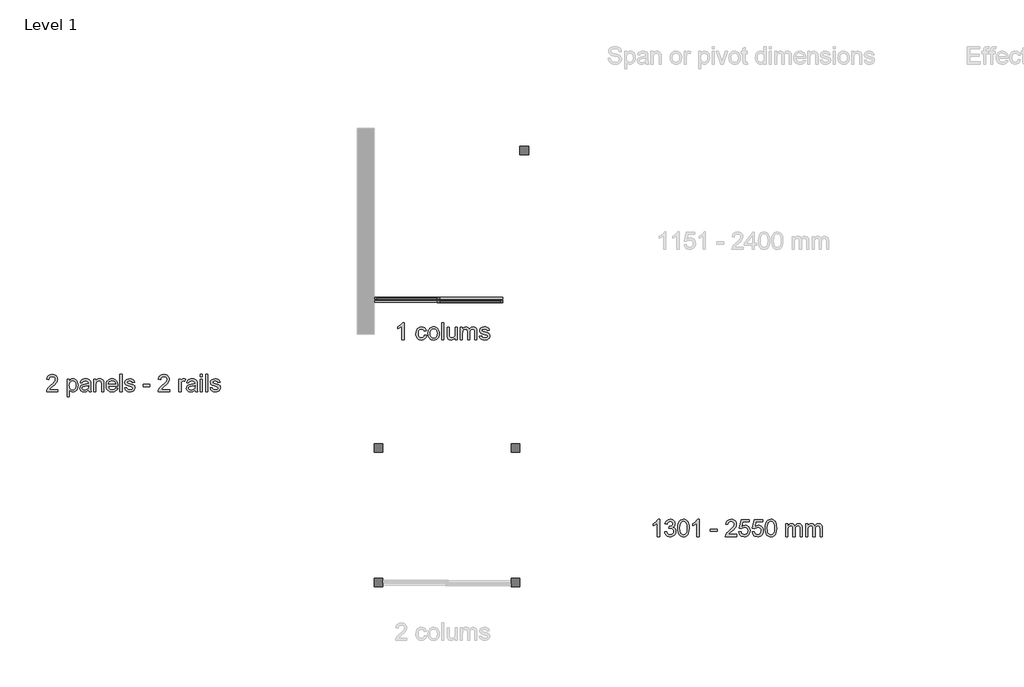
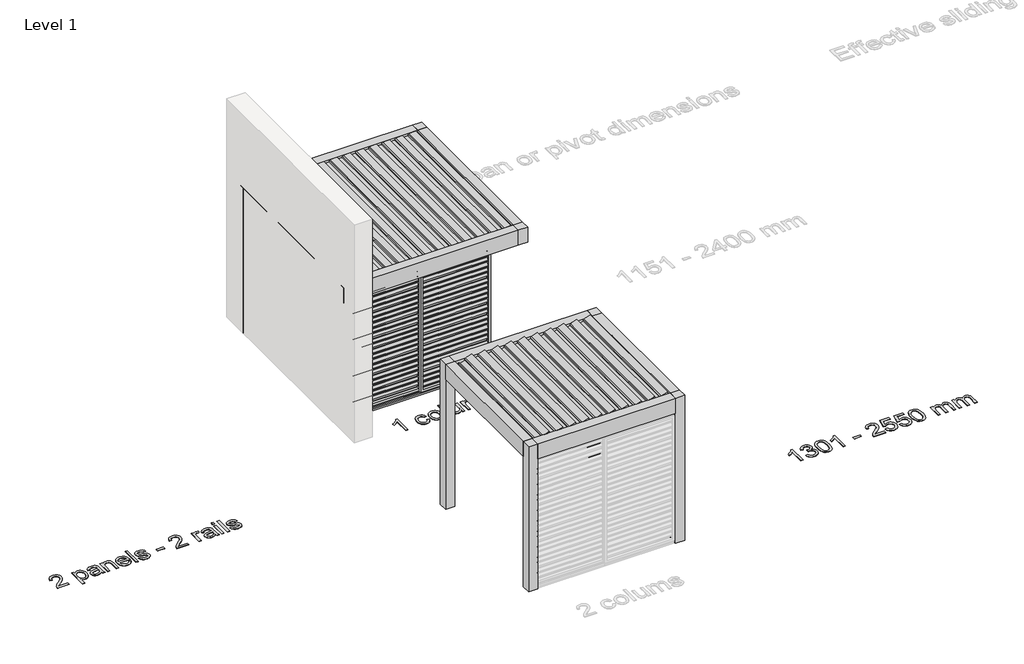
# One storey, part 35 of 69: 7 proxies.
"""IFC4 building model written with IfcOpenShell, lengths in millimetres."""

from ifc_helpers import new_model, si_unit, origin, origin_with_axes, place, context, project, spatial, polyline, outline, extrude, transform, mapped, element, save
from components import generic_models_f1411d27, generic_models_b7cc87ee, generic_models_d7d8f14e, generic_models_ce49d216

model = new_model("IFC4")

# Units and contexts
model_context = context("Model", 3, world=origin())
ifc_project = project(units=[si_unit("LENGTHUNIT", "METRE", prefix="MILLI")], contexts=[model_context])

# Site, building, storey
site = spatial("IfcSite", under=ifc_project)
building = spatial("IfcBuilding", under=site)
storey = spatial("IfcBuildingStorey", under=building, Name="Level 1", Elevation=0.0)

# Proxies
placement = place(None, origin())
generic_models_shape = generic_models_f1411d27(model_context)
element("IfcBuildingElementProxy", 1, Name="Renson_Camargue_Loggia_Paro_Aluminium : Renson_Camargue_Loggia_Paro_Aluminium", ObjectType="Renson_Camargue_Loggia_Paro_Aluminium : Renson_Camargue_Loggia_Paro_Aluminium", at=placement, inside=storey, context=model_context, shape_type="MappedRepresentation", body=[
    mapped(generic_models_shape, transform((229821.2027724, -11249.318181, 0.0), x_axis=(1.0, 0.0, 0.0), y_axis=(0.0, 1.0, 0.0), z_axis=(0.0, 0.0, 1.0))),
])
generic_models_2_shape = generic_models_b7cc87ee(model_context)
element("IfcBuildingElementProxy", 2, Name="Renson_Camargue_Loggia_Paro_Aluminium : Renson_Camargue_Loggia_Paro_Aluminium", ObjectType="Renson_Camargue_Loggia_Paro_Aluminium : Renson_Camargue_Loggia_Paro_Aluminium", at=placement, inside=storey, context=model_context, shape_type="MappedRepresentation", body=[
    mapped(generic_models_2_shape, transform((230926.2027724, -11305.4086851, 0.0), x_axis=(1.0, 0.0, 0.0), y_axis=(0.0, 1.0, 0.0), z_axis=(0.0, 0.0, 1.0))),
])
generic_models_3_shape = generic_models_d7d8f14e(model_context)
element("IfcBuildingElementProxy", 3, Name="Renson_Camargue_Freestanding_Patio covers : Renson_Camargue_Freestanding_Patio covers", ObjectType="Renson_Camargue_Freestanding_Patio covers : Renson_Camargue_Freestanding_Patio covers", at=placement, inside=storey, context=model_context, shape_type="MappedRepresentation", body=[
    mapped(generic_models_3_shape, transform((230523.7027724, -15046.484658, 0.0), x_axis=(1.0, 0.0, 0.0), y_axis=(0.0, 1.0, 0.0), z_axis=(0.0, 0.0, 1.0))),
])
generic_models_4_shape = generic_models_ce49d216(model_context)
element("IfcBuildingElementProxy", 4, Name="Renson_Camargue_Facade-Mounted_Patio covers : Renson_Camargue_Facade-Mounted_Patio covers", ObjectType="Renson_Camargue_Facade-Mounted_Patio covers : Renson_Camargue_Facade-Mounted_Patio covers", at=placement, inside=storey, context=model_context, shape_type="MappedRepresentation", body=[
    mapped(generic_models_4_shape, transform((230448.7027724, -10089.318181, 0.0), x_axis=(1.0, 0.0, 0.0), y_axis=(0.0, 1.0, 0.0), z_axis=(0.0, 0.0, 1.0))),
])
element("IfcBuildingElementProxy", 5, Name="300mm Arial", ObjectType="300mm Arial", at=placement, inside=storey, context=model_context, shape_type="SweptSolid", body=[
    extrude(outline(polyline([(223710.7497808, -12846.1954751), (223710.7497808, -12883.8665914), (223512.9764202, -12883.8665914), (223517.0231222, -12857.8941226), (223526.3121426, -12837.5962335), (223539.9053823, -12817.9053497), (223559.5686749, -12797.2947609), (223587.0678541, -12774.2377569), (223627.7188145, -12738.1301391), (223652.1093908, -12711.4770885), (223664.304679, -12689.8456272), (223668.369775, -12668.8027771), (223664.5346052, -12649.9396278), (223653.0290958, -12634.2586577), (223635.3431689, -12623.6912474), (223612.9667465, -12620.1687773), (223589.4682841, -12623.608474), (223571.2121401, -12633.9275639), (223559.4307192, -12650.3167068), (223555.3564261, -12671.9665622), (223517.6853098, -12667.2576727), (223526.8179803, -12630.8189611), (223535.3643389, -12616.2830237), (223546.5640464, -12604.2026987), (223560.1595854, -12594.7067447), (223575.8934385, -12587.9239204), (223613.7760869, -12582.497661), (223633.9659107, -12584.0059772), (223651.9346469, -12588.5309257), (223667.6822955, -12596.0725066), (223681.2088566, -12606.6307199), (223692.0728718, -12619.4238163), (223699.8328826, -12633.6700465), (223704.4888891, -12649.3694107), (223706.0408913, -12666.5219087), (223704.3670282, -12684.5389294), (223699.345439, -12702.2432504), (223690.4334977, -12720.2510741), (223677.0885783, -12739.1786027), (223655.8158019, -12761.7757543), (223623.1202896, -12790.7924467), (223579.7837906, -12827.0288232), (223562.7876424, -12846.1954751), (223710.7497808, -12846.1954751)])), origin_with_axes(), (0.0, 0.0, 1.0), 5.0),
    extrude(outline(polyline([(223875.5609147, -12968.6266031), (223875.5609147, -12662.5487832), (223913.232031, -12662.5487832), (223913.232031, -12699.4841355), (223925.5192896, -12681.2647797), (223939.2780762, -12668.2509541), (223955.3177312, -12660.4426587), (223974.447595, -12657.8398936), (223999.9234232, -12661.4819254), (224022.198678, -12672.4080206), (224040.3352603, -12689.9559918), (224053.3950712, -12713.4636513), (224061.2861399, -12741.2203478), (224063.9164962, -12771.5154301), (224060.9458491, -12803.7326958), (224052.0339078, -12832.5470531), (224037.4657808, -12856.496171), (224017.5265766, -12874.1177186), (223994.3040257, -12884.9610404), (223969.8858582, -12888.575481), (223952.5678133, -12886.1566569), (223937.1075725, -12878.9001845), (223923.8730177, -12867.9464981), (223913.232031, -12854.4360318), (223913.232031, -12968.6266031), (223875.5609147, -12968.6266031)]), holes=[polyline([(223913.232031, -12774.9735209), (223917.3063241, -12808.745088), (223929.5292034, -12832.3631121), (223947.5646182, -12846.2690515), (223969.0765179, -12850.9043647), (223990.9379054, -12846.1035046), (224009.4331727, -12831.7009245), (224022.0423281, -12807.2183778), (224026.2453799, -12772.1776177), (224022.1434957, -12738.5899916), (224009.8378429, -12714.6408737), (223991.8300193, -12700.2934759), (223970.6216222, -12695.5110099), (223949.3304518, -12700.5969785), (223930.6328494, -12715.8548843), (223917.5822356, -12740.8064806), (223913.232031, -12774.9735209)])]), origin_with_axes(), (0.0, 0.0, 1.0), 5.0),
    extrude(outline(polyline([(224247.5631882, -12855.6132542), (224229.5645616, -12871.0459039), (224211.0325061, -12881.1442647), (224191.5439574, -12886.7176769), (224170.6758512, -12888.575481), (224139.1943495, -12884.1057147), (224115.9717985, -12870.696416), (224101.6519919, -12850.3341476), (224096.878723, -12825.0054722), (224098.6813448, -12809.3888815), (224104.0892101, -12795.2070306), (224112.4309343, -12783.0669248), (224123.0351328, -12773.5755693), (224149.4122719, -12761.2147343), (224182.0066167, -12755.5493515), (224220.5238616, -12749.5896632), (224247.342459, -12742.5999053), (224247.5631882, -12734.2121958), (224244.9696201, -12717.3999886), (224237.1889159, -12706.400317), (224219.7880976, -12698.2333367), (224195.5446741, -12695.5110099), (224173.1038724, -12697.3228287), (224157.4320994, -12702.7582852), (224146.7451274, -12712.8106607), (224139.2587288, -12728.4732367), (224101.5876125, -12723.7643471), (224108.126715, -12703.1629554), (224117.8847849, -12686.9761476), (224131.7723302, -12674.5969185), (224150.6998589, -12665.4182627), (224173.8488334, -12659.7344859), (224200.4007164, -12657.8398936), (224225.8673475, -12659.5137567), (224246.054872, -12664.5353459), (224261.2759896, -12672.0861239), (224271.8433999, -12681.3475531), (224278.8515519, -12692.7978802), (224283.3948945, -12706.9153518), (224285.2343045, -12739.8775785), (224285.2343045, -12786.7457447), (224287.1472909, -12852.1919517), (224294.6520836, -12883.8665914), (224256.9809673, -12883.8665914), (224247.5631882, -12855.6132542)]), holes=[polyline([(224247.5631882, -12780.2710216), (224186.7890826, -12791.8225163), (224154.3786788, -12797.9293574), (224139.7001872, -12807.8621712), (224134.5498393, -12822.3567219), (224137.3549395, -12833.5587286), (224145.7702401, -12842.7373844), (224159.6118002, -12848.8626196), (224178.6956787, -12850.9043647), (224198.9291884, -12848.6510875), (224216.8082534, -12841.8912558), (224231.302804, -12831.9308508), (224241.3827707, -12820.0758535), (224245.8525369, -12807.8621712), (224247.342459, -12790.9395995), (224247.5631882, -12780.2710216)])]), origin_with_axes(), (0.0, 0.0, 1.0), 5.0),
    extrude(outline(polyline([(224337.0320894, -12883.8665914), (224337.0320894, -12662.5487832), (224374.7032057, -12662.5487832), (224374.7032057, -12693.4508707), (224387.7906077, -12677.8710682), (224403.508366, -12666.7426379), (224421.8564805, -12660.0655797), (224442.8349512, -12657.8398936), (224461.403795, -12659.6333183), (224478.4091402, -12665.0135925), (224492.5909911, -12673.3093315), (224502.6893519, -12683.8491507), (224513.9833291, -12711.5506649), (224515.9698919, -12747.9709824), (224515.9698919, -12883.8665914), (224478.2987756, -12883.8665914), (224478.2987756, -12753.047754), (224473.957768, -12719.7176452), (224467.9520945, -12709.7940284), (224458.6170888, -12702.0960976), (224446.6517269, -12697.1572818), (224432.7549846, -12695.5110099), (224410.6912619, -12699.208224), (224391.8832949, -12710.2998661), (224384.3670059, -12719.3543617), (224378.998228, -12731.7289923), (224374.7032057, -12766.4386586), (224374.7032057, -12883.8665914), (224337.0320894, -12883.8665914)])), origin_with_axes(), (0.0, 0.0, 1.0), 5.0),
    extrude(outline(polyline([(224722.7195732, -12817.9421379), (224759.6549255, -12822.6510275), (224746.3467943, -12850.4813004), (224725.1108061, -12871.2850272), (224696.4252076, -12884.2528675), (224660.7682452, -12888.575481), (224637.3939429, -12886.7107791), (224616.5672235, -12881.1166735), (224598.2880868, -12871.7931642), (224582.556533, -12858.7402512), (224569.9059909, -12842.3212179), (224560.8698894, -12822.8993478), (224555.4482285, -12800.4746409), (224553.6410082, -12775.0470973), (224555.4666226, -12748.7573302), (224560.9434658, -12725.585363), (224570.0715378, -12705.5311958), (224582.8508386, -12688.5948284), (224598.5410057, -12675.1395444), (224616.4016766, -12665.5286273), (224636.4328512, -12659.762077), (224658.6345296, -12657.8398936), (224680.1211374, -12659.7574785), (224699.5522045, -12665.5102332), (224716.927731, -12675.0981577), (224732.2477169, -12688.521252), (224744.7534054, -12705.4208312), (224753.6860401, -12725.4382102), (224759.0456209, -12748.5733892), (224760.8321479, -12774.8263681), (224760.6114187, -12784.9799111), (224591.3121245, -12784.9799111), (224597.8328329, -12813.1780661), (224612.980374, -12833.9082165), (224634.8417616, -12846.6553276), (224661.5040092, -12850.9043647), (224681.5535779, -12848.936196), (224698.4393615, -12843.03169), (224712.1613599, -12832.8229646), (224722.7195732, -12817.9421379)]), holes=[polyline([(224591.3121245, -12747.3087948), (224723.1610316, -12747.3087948), (224718.0658659, -12727.4063789), (224708.0778698, -12713.1693457), (224686.1153147, -12699.9255939), (224658.4873768, -12695.5110099), (224633.0943221, -12699.03348), (224612.0974572, -12709.6008903), (224597.5017391, -12726.0728067), (224591.3121245, -12747.3087948)])]), origin_with_axes(), (0.0, 0.0, 1.0), 5.0),
    extrude(outline(polyline([(224798.5032642, -12883.8665914), (224798.5032642, -12582.497661), (224836.1743805, -12582.497661), (224836.1743805, -12883.8665914), (224798.5032642, -12883.8665914)])), origin_with_axes(), (0.0, 0.0, 1.0), 5.0),
    extrude(outline(polyline([(224878.5543863, -12817.9421379), (224916.2255026, -12813.2332484), (224922.1667969, -12829.3464798), (224933.6631092, -12841.19228), (224950.7880161, -12848.4763435), (224973.6150939, -12850.9043647), (224996.1662602, -12848.6786786), (225012.0219742, -12842.0016204), (225021.4029651, -12832.3263239), (225024.529962, -12821.1059231), (225021.384571, -12811.504203), (225011.9483978, -12804.1833513), (224973.1736355, -12793.441197), (224916.4462318, -12775.0103091), (224902.089637, -12765.7488798), (224891.6877736, -12753.4892124), (224885.3694003, -12739.0130558), (224883.2632759, -12723.1021596), (224884.955533, -12708.5064414), (224890.0323046, -12695.0327633), (224898.033738, -12683.2145542), (224908.4999807, -12673.585243), (224932.4490986, -12662.4384186), (224964.8595024, -12657.8398936), (224989.3788374, -12659.6885006), (225010.697599, -12665.2343217), (225027.8409, -12673.9347309), (225039.833853, -12685.2471023), (225047.7801041, -12700.0083673), (225052.7832992, -12719.0554576), (225015.1121829, -12723.7643471), (225010.3573082, -12711.9093499), (225000.9487261, -12702.9790144), (224986.7944664, -12697.378011), (224967.8025584, -12695.5110099), (224946.171097, -12697.2952376), (224931.7501228, -12702.6479206), (224923.6383248, -12710.3734425), (224920.9343922, -12719.2761868), (224925.4225525, -12730.2390703), (224939.4756447, -12738.5532034), (224971.9228367, -12746.5730308), (225027.2155006, -12764.304943), (225041.8204158, -12772.784623), (225052.8936638, -12784.3913), (225059.8742247, -12799.1617621), (225062.2010783, -12817.1327975), (225059.4695545, -12835.7108383), (225051.2749831, -12853.1852331), (225037.9300637, -12868.1856214), (225019.7474961, -12879.3416429), (224997.784941, -12886.2670215), (224973.1000591, -12888.575481), (224935.1162431, -12884.1241088), (224907.3963348, -12870.7699924), (224888.8918704, -12848.6602845), (224878.5543863, -12817.9421379)])), origin_with_axes(), (0.0, 0.0, 1.0), 5.0),
    extrude(outline(polyline([(225203.4677645, -12794.3976902), (225203.4677645, -12756.7265739), (225321.1900029, -12756.7265739), (225321.1900029, -12794.3976902), (225203.4677645, -12794.3976902)])), origin_with_axes(), (0.0, 0.0, 1.0), 5.0),
    extrude(outline(polyline([(225664.9389392, -12846.1954751), (225664.9389392, -12883.8665914), (225467.1655786, -12883.8665914), (225471.2122806, -12857.8941226), (225480.5013009, -12837.5962335), (225494.0945407, -12817.9053497), (225513.7578333, -12797.2947609), (225541.2570124, -12774.2377569), (225581.9079729, -12738.1301391), (225606.2985492, -12711.4770885), (225618.4938373, -12689.8456272), (225622.5589334, -12668.8027771), (225618.7237636, -12649.9396278), (225607.2182542, -12634.2586577), (225589.5323273, -12623.6912474), (225567.1559049, -12620.1687773), (225543.6574425, -12623.608474), (225525.4012985, -12633.9275639), (225513.6198776, -12650.3167068), (225509.5455845, -12671.9665622), (225471.8744682, -12667.2576727), (225481.0071387, -12630.8189611), (225489.5534973, -12616.2830237), (225500.7532048, -12604.2026987), (225514.3487438, -12594.7067447), (225530.0825968, -12587.9239204), (225567.9652453, -12582.497661), (225588.155069, -12584.0059772), (225606.1238052, -12588.5309257), (225621.8714539, -12596.0725066), (225635.398015, -12606.6307199), (225646.2620302, -12619.4238163), (225654.022041, -12633.6700465), (225658.6780475, -12649.3694107), (225660.2300497, -12666.5219087), (225658.5561866, -12684.5389294), (225653.5345974, -12702.2432504), (225644.622656, -12720.2510741), (225631.2777367, -12739.1786027), (225610.0049603, -12761.7757543), (225577.309448, -12790.7924467), (225533.9729489, -12827.0288232), (225516.9768008, -12846.1954751), (225664.9389392, -12846.1954751)])), origin_with_axes(), (0.0, 0.0, 1.0), 5.0),
    extrude(outline(polyline([(225829.7500731, -12883.8665914), (225829.7500731, -12662.5487832), (225862.7122998, -12662.5487832), (225862.7122998, -12695.2902807), (225874.8891939, -12676.3075698), (225886.1095947, -12665.1239571), (225897.3667838, -12659.6609095), (225909.6540424, -12657.8398936), (225928.4160242, -12660.7461614), (225947.4723115, -12669.4649647), (225934.8907473, -12703.2365318), (225921.6469955, -12697.4423904), (225908.4032436, -12695.5110099), (225897.1552516, -12697.368814), (225887.1028761, -12702.9422262), (225878.9818811, -12711.8081823), (225873.5280305, -12723.543618), (225868.9478996, -12744.5864681), (225867.4211894, -12767.5423046), (225867.4211894, -12883.8665914), (225829.7500731, -12883.8665914)])), origin_with_axes(), (0.0, 0.0, 1.0), 5.0),
    extrude(outline(polyline([(226112.2834454, -12855.6132542), (226094.2848187, -12871.0459039), (226075.7527632, -12881.1442647), (226056.2642145, -12886.7176769), (226035.3961084, -12888.575481), (226003.9146066, -12884.1057147), (225980.6920557, -12870.696416), (225966.372249, -12850.3341476), (225961.5989801, -12825.0054722), (225963.4016019, -12809.3888815), (225968.8094672, -12795.2070306), (225977.1511915, -12783.0669248), (225987.75539, -12773.5755693), (226014.132529, -12761.2147343), (226046.7268738, -12755.5493515), (226085.2441187, -12749.5896632), (226112.0627162, -12742.5999053), (226112.2834454, -12734.2121958), (226109.6898773, -12717.3999886), (226101.9091731, -12706.400317), (226084.5083547, -12698.2333367), (226060.2649312, -12695.5110099), (226037.8241295, -12697.3228287), (226022.1523565, -12702.7582852), (226011.4653846, -12712.8106607), (226003.978986, -12728.4732367), (225966.3078697, -12723.7643471), (225972.8469721, -12703.1629554), (225982.6050421, -12686.9761476), (225996.4925874, -12674.5969185), (226015.420116, -12665.4182627), (226038.5690906, -12659.7344859), (226065.1209736, -12657.8398936), (226090.5876047, -12659.5137567), (226110.7751292, -12664.5353459), (226125.9962467, -12672.0861239), (226136.563657, -12681.3475531), (226143.571809, -12692.7978802), (226148.1151517, -12706.9153518), (226149.9545617, -12739.8775785), (226149.9545617, -12786.7457447), (226151.867548, -12852.1919517), (226159.3723407, -12883.8665914), (226121.7012244, -12883.8665914), (226112.2834454, -12855.6132542)]), holes=[polyline([(226112.2834454, -12780.2710216), (226051.5093398, -12791.8225163), (226019.098936, -12797.9293574), (226004.4204444, -12807.8621712), (225999.2700964, -12822.3567219), (226002.0751967, -12833.5587286), (226010.4904973, -12842.7373844), (226024.3320574, -12848.8626196), (226043.4159359, -12850.9043647), (226063.6494456, -12848.6510875), (226081.5285106, -12841.8912558), (226096.0230612, -12831.9308508), (226106.1030278, -12820.0758535), (226110.5727941, -12807.8621712), (226112.0627162, -12790.9395995), (226112.2834454, -12780.2710216)])]), origin_with_axes(), (0.0, 0.0, 1.0), 5.0),
    extrude(outline(polyline([(226201.7523466, -12620.1687773), (226201.7523466, -12582.497661), (226239.4234629, -12582.497661), (226239.4234629, -12620.1687773), (226201.7523466, -12620.1687773)])), origin_with_axes(), (0.0, 0.0, 1.0), 5.0),
    extrude(outline(polyline([(226201.7523466, -12883.8665914), (226201.7523466, -12662.5487832), (226239.4234629, -12662.5487832), (226239.4234629, -12883.8665914), (226201.7523466, -12883.8665914)])), origin_with_axes(), (0.0, 0.0, 1.0), 5.0),
    extrude(outline(polyline([(226295.9301374, -12883.8665914), (226295.9301374, -12582.497661), (226333.6012537, -12582.497661), (226333.6012537, -12883.8665914), (226295.9301374, -12883.8665914)])), origin_with_axes(), (0.0, 0.0, 1.0), 5.0),
    extrude(outline(polyline([(226375.9812595, -12817.9421379), (226413.6523758, -12813.2332484), (226419.59367, -12829.3464798), (226431.0899824, -12841.19228), (226448.2148893, -12848.4763435), (226471.0419671, -12850.9043647), (226493.5931334, -12848.6786786), (226509.4488474, -12842.0016204), (226518.8298382, -12832.3263239), (226521.9568352, -12821.1059231), (226518.8114441, -12811.504203), (226509.375271, -12804.1833513), (226470.6005087, -12793.441197), (226413.873105, -12775.0103091), (226399.5165101, -12765.7488798), (226389.1146467, -12753.4892124), (226382.7962735, -12739.0130558), (226380.690149, -12723.1021596), (226382.3824062, -12708.5064414), (226387.4591778, -12695.0327633), (226395.4606111, -12683.2145542), (226405.9268539, -12673.585243), (226429.8759718, -12662.4384186), (226462.2863756, -12657.8398936), (226486.8057105, -12659.6885006), (226508.1244722, -12665.2343217), (226525.2677731, -12673.9347309), (226537.2607262, -12685.2471023), (226545.2069773, -12700.0083673), (226550.2101724, -12719.0554576), (226512.5390561, -12723.7643471), (226507.7841813, -12711.9093499), (226498.3755993, -12702.9790144), (226484.2213395, -12697.378011), (226465.2294315, -12695.5110099), (226443.5979702, -12697.2952376), (226429.176996, -12702.6479206), (226421.065198, -12710.3734425), (226418.3612653, -12719.2761868), (226422.8494257, -12730.2390703), (226436.9025179, -12738.5532034), (226469.3497099, -12746.5730308), (226524.6423738, -12764.304943), (226539.247289, -12772.784623), (226550.320537, -12784.3913), (226557.3010979, -12799.1617621), (226559.6279515, -12817.1327975), (226556.8964277, -12835.7108383), (226548.7018562, -12853.1852331), (226535.3569369, -12868.1856214), (226517.1743692, -12879.3416429), (226495.2118141, -12886.2670215), (226470.5269323, -12888.575481), (226432.5431163, -12884.1241088), (226404.8232079, -12870.7699924), (226386.3187436, -12848.6602845), (226375.9812595, -12817.9421379)])), origin_with_axes(), (0.0, 0.0, 1.0), 5.0),
])
element("IfcBuildingElementProxy", 6, Name="300mm Arial", ObjectType="300mm Arial", at=placement, inside=storey, context=model_context, shape_type="SweptSolid", body=[
    extrude(outline(polyline([(229769.6806411, -11975.9863343), (229732.0095248, -11975.9863343), (229732.0095248, -11741.1304685), (229696.3249712, -11766.5511144), (229656.6672922, -11785.5706136), (229656.6672922, -11749.9596364), (229686.2542016, -11733.8647991), (229711.8863796, -11714.7165413), (229732.0922982, -11694.3542728), (229745.4004294, -11674.6174038), (229769.6806411, -11674.6174038), (229769.6806411, -11975.9863343)])), origin_with_axes(), (0.0, 0.0, 1.0), 5.0),
    extrude(outline(polyline([(230127.556246, -11895.9352121), (230165.2273623, -11900.6441016), (230154.7243313, -11934.1489544), (230134.9874623, -11959.4684327), (230107.8745593, -11975.388526), (230075.2434263, -11980.6952238), (230054.1155034, -11978.8443175), (230035.17188, -11973.2915986), (230018.4125558, -11964.0370672), (230003.837531, -11951.0807232), (229992.0400153, -11934.6662884), (229983.6132183, -11915.0374847), (229978.5571402, -11892.1943121), (229976.8717808, -11866.1367705), (229979.7504574, -11832.6135237), (229988.3864872, -11803.5600431), (230002.917826, -11780.0983689), (230023.4824296, -11763.350541), (230048.084538, -11753.3073626), (230074.7283915, -11749.9596364), (230106.5593811, -11754.5581614), (230132.0076181, -11768.3537362), (230150.2637621, -11790.6105969), (230160.5184728, -11820.5929795), (230122.8473565, -11825.301869), (230116.0139484, -11808.8667409), (230105.3729617, -11797.08532), (230091.5130075, -11789.9943945), (230075.0226971, -11787.6307527), (230050.6781061, -11792.28446), (230031.3551043, -11806.2455817), (230018.7459489, -11830.268276), (230014.5428971, -11865.1067009), (230018.6539784, -11900.4141754), (230030.9872223, -11924.5196431), (230049.9607362, -11938.3979914), (230073.9926275, -11943.0241075), (230093.4995703, -11940.1362338), (230109.49324, -11931.4726128), (230121.1275081, -11916.8125153), (230127.556246, -11895.9352121)])), origin_with_axes(), (0.0, 0.0, 1.0), 5.0),
    extrude(outline(polyline([(230188.77181, -11865.3274301), (230190.8089565, -11836.6648242), (230196.9203962, -11811.9661467), (230207.1061289, -11791.2313978), (230221.3661548, -11774.4605773), (230235.7227496, -11763.7414157), (230251.5692666, -11756.0848716), (230268.9057056, -11751.4909452), (230287.7320667, -11749.9596364), (230308.5151002, -11751.8243383), (230327.3069723, -11757.4184439), (230344.1076832, -11766.7419532), (230358.9172328, -11779.7948662), (230371.0044556, -11796.1357246), (230379.6381861, -11815.3230699), (230384.8184245, -11837.3569022), (230386.5451706, -11862.2372213), (230383.49175, -11900.2946137), (230374.3314884, -11929.2653209), (230359.3311, -11950.9611615), (230338.7572994, -11967.1939546), (230314.3207379, -11977.3199065), (230287.7320667, -11980.6952238), (230266.6455306, -11978.8374197), (230247.6789145, -11973.2640075), (230230.8322184, -11963.9749871), (230216.1054422, -11950.9703586), (230204.1469781, -11934.4708511), (230195.6052181, -11914.6971939), (230190.480162, -11891.6493869), (230188.77181, -11865.3274301)]), holes=[polyline([(230226.4429263, -11865.2538537), (230230.8023279, -11899.3473176), (230243.8805329, -11923.6367263), (230263.5622196, -11938.1772622), (230287.7320667, -11943.0241075), (230311.7915492, -11938.1496711), (230331.4364477, -11923.5263617), (230344.5146526, -11898.9150563), (230348.8740543, -11864.0766313), (230344.4870615, -11830.9764488), (230331.3260831, -11807.0181339), (230311.6535934, -11792.477598), (230287.7320667, -11787.6307527), (230263.5622196, -11792.4592039), (230243.8805329, -11806.9445575), (230230.8023279, -11831.1787839), (230226.4429263, -11865.2538537)])]), origin_with_axes(), (0.0, 0.0, 1.0), 5.0),
    extrude(outline(polyline([(230428.9251764, -11975.9863343), (230428.9251764, -11674.6174038), (230466.5962927, -11674.6174038), (230466.5962927, -11975.9863343), (230428.9251764, -11975.9863343)])), origin_with_axes(), (0.0, 0.0, 1.0), 5.0),
    extrude(outline(polyline([(230664.3696534, -11975.9863343), (230664.3696534, -11937.947336), (230650.7396254, -11956.6495369), (230634.8655173, -11970.0082518), (230616.7473291, -11978.0234808), (230596.3850606, -11980.6952238), (230578.0369461, -11978.8190256), (230560.9580245, -11973.1904311), (230546.6290208, -11964.7291452), (230536.53066, -11954.3548729), (230525.3102592, -11926.6165705), (230523.1029672, -11891.5942046), (230523.1029672, -11754.668526), (230560.7740835, -11754.668526), (230560.7740835, -11873.8622924), (230563.0549519, -11912.2691727), (230568.5455907, -11925.0806632), (230577.9541727, -11934.820339), (230590.6552986, -11940.9731654), (230606.0235689, -11943.0241075), (230622.2747561, -11940.9271801), (230637.4774795, -11934.636398), (230650.0130585, -11924.7311753), (230658.2628122, -11911.7909261), (230662.8429431, -11894.068211), (230664.3696534, -11869.8155904), (230664.3696534, -11754.668526), (230702.0407697, -11754.668526), (230702.0407697, -11975.9863343), (230664.3696534, -11975.9863343)])), origin_with_axes(), (0.0, 0.0, 1.0), 5.0),
    extrude(outline(polyline([(230753.8385546, -11975.9863343), (230753.8385546, -11754.668526), (230791.5096709, -11754.668526), (230791.5096709, -11791.0888435), (230802.8404363, -11774.3594098), (230817.4085633, -11761.2536137), (230834.7174112, -11752.7831307), (230854.2703393, -11749.9596364), (230875.2212189, -11752.838313), (230892.015032, -11761.4743429), (230904.559808, -11775.2975088), (230912.7635765, -11793.7375938), (230926.494772, -11774.5847375), (230942.1573479, -11760.9041258), (230959.7513043, -11752.6957588), (230979.2766412, -11749.9596364), (231007.5943578, -11754.5121761), (231028.5360404, -11768.1697952), (231041.4762896, -11791.3003756), (231045.789706, -11824.2717994), (231045.789706, -11975.9863343), (231008.1185896, -11975.9863343), (231008.1185896, -11840.4586072), (231004.6237107, -11809.0046966), (230999.7124861, -11800.3318786), (230991.9685701, -11793.5168646), (230982.008165, -11789.1022807), (230970.4474733, -11787.6307527), (230950.0392197, -11791.4015432), (230933.4017564, -11802.7139145), (230922.3377054, -11822.340419), (230918.6496884, -11851.0536087), (230918.6496884, -11975.9863343), (230880.9785721, -11975.9863343), (230880.9785721, -11836.2647525), (230878.7988713, -11814.964385), (230872.2597688, -11799.7708586), (230860.7542594, -11790.6657792), (230843.6753378, -11787.6307527), (230829.1623931, -11789.6541037), (230815.7898826, -11795.7241566), (230804.7534227, -11805.6937587), (230797.24863, -11819.4157571), (230792.9444107, -11838.4536504), (230791.5096709, -11864.3709369), (230791.5096709, -11975.9863343), (230753.8385546, -11975.9863343)])), origin_with_axes(), (0.0, 0.0, 1.0), 5.0),
    extrude(outline(polyline([(231088.1697118, -11910.0618807), (231125.8408281, -11905.3529912), (231131.7821223, -11921.4662226), (231143.2784347, -11933.3120228), (231160.4033416, -11940.5960863), (231183.2304194, -11943.0241075), (231205.7815857, -11940.7984214), (231221.6372996, -11934.1213632), (231231.0182905, -11924.4460667), (231234.1452875, -11913.2256659), (231230.9998964, -11903.6239458), (231221.5637233, -11896.3030941), (231182.788961, -11885.5609398), (231126.0615573, -11867.1300519), (231111.7049624, -11857.8686227), (231101.303099, -11845.6089552), (231094.9847258, -11831.1327987), (231092.8786013, -11815.2219024), (231094.5708585, -11800.6261842), (231099.64763, -11787.1525061), (231107.6490634, -11775.334297), (231118.1153062, -11765.7049858), (231142.0644241, -11754.5581614), (231174.4748279, -11749.9596364), (231198.9941628, -11751.8082434), (231220.3129245, -11757.3540645), (231237.4562254, -11766.0544737), (231249.4491785, -11777.3668451), (231257.3954296, -11792.1281101), (231262.3986247, -11811.1752004), (231224.7275084, -11815.88409), (231219.9726336, -11804.0290927), (231210.5640516, -11795.0987572), (231196.4097918, -11789.4977539), (231177.4178838, -11787.6307527), (231155.7864225, -11789.4149804), (231141.3654483, -11794.7676634), (231133.2536503, -11802.4931853), (231130.5497176, -11811.3959296), (231135.037878, -11822.3588131), (231149.0909702, -11830.6729462), (231181.5381622, -11838.6927737), (231236.8308261, -11856.4246858), (231251.4357413, -11864.9043658), (231262.5089893, -11876.5110428), (231269.4895502, -11891.2815049), (231271.8164038, -11909.2525403), (231269.08488, -11927.8305811), (231260.8903085, -11945.3049759), (231247.5453892, -11960.3053642), (231229.3628215, -11971.4613857), (231207.4002664, -11978.3867643), (231182.7153846, -11980.6952238), (231144.7315686, -11976.2438517), (231117.0116602, -11962.8897352), (231098.5071959, -11940.7800273), (231088.1697118, -11910.0618807)])), origin_with_axes(), (0.0, 0.0, 1.0), 5.0),
])
element("IfcBuildingElementProxy", 7, Name="300mm Arial", ObjectType="300mm Arial", at=placement, inside=storey, context=model_context, shape_type="SweptSolid", body=[
    extrude(outline(polyline([(234241.0703661, -15419.8212305), (234203.3992498, -15419.8212305), (234203.3992498, -15184.9653647), (234167.7146963, -15210.3860106), (234128.0570172, -15229.4055098), (234128.0570172, -15193.7945326), (234157.6439267, -15177.6996953), (234183.2761047, -15158.5514375), (234203.4820233, -15138.1891691), (234216.7901544, -15118.4523), (234241.0703661, -15118.4523), (234241.0703661, -15419.8212305)])), origin_with_axes(), (0.0, 0.0, 1.0), 5.0),
    extrude(outline(polyline([(234330.5392674, -15339.7701083), (234368.2103837, -15335.0612188), (234376.6440784, -15358.7344252), (234388.9957164, -15374.7188979), (234405.8723029, -15383.8239772), (234427.8808433, -15386.8590037), (234453.7061593, -15382.6835431), (234473.6453635, -15370.1571611), (234486.3924746, -15351.4687558), (234490.6415117, -15328.8072249), (234486.4292628, -15307.2953252), (234473.7925163, -15289.8485216), (234454.6626525, -15278.2878299), (234430.971052, -15274.434266), (234404.5571248, -15278.5545443), (234408.7509795, -15240.883428), (234414.7842443, -15241.3248864), (234437.3538047, -15238.6209537), (234457.5321321, -15230.5091558), (234471.7691653, -15216.7871573), (234476.514843, -15197.2526234), (234473.0751464, -15180.9830422), (234462.7560564, -15167.7852756), (234447.010707, -15159.0388811), (234427.2922321, -15156.1234163), (234407.5369689, -15159.0664723), (234391.3869494, -15167.8956402), (234379.5963314, -15182.61092), (234372.9192732, -15203.2123117), (234335.2481569, -15198.5034222), (234346.339799, -15164.6766727), (234366.0766681, -15139.4215737), (234393.0792065, -15123.6946185), (234425.9678569, -15118.4523), (234449.6502603, -15121.036671), (234471.4012833, -15128.7897841), (234489.7402008, -15141.0218604), (234503.1862877, -15157.0431213), (234511.4360414, -15175.5016004), (234514.1859593, -15195.0453314), (234511.5739972, -15213.2554902), (234503.7381107, -15229.7733918), (234490.7886645, -15243.8448781), (234472.8360231, -15254.715791), (234496.417259, -15264.2439347), (234513.8916538, -15280.4675307), (234524.7073844, -15302.5036622), (234528.312628, -15329.4694125), (234526.5100062, -15348.5808821), (234521.1021409, -15366.1840356), (234512.089032, -15382.2788729), (234499.4706795, -15396.865394), (234484.0978107, -15408.9687116), (234466.8211525, -15417.6139385), (234447.6407049, -15422.8010746), (234426.5564681, -15424.53012), (234407.5001807, -15423.0539935), (234390.1361506, -15418.625614), (234374.4643776, -15411.2449815), (234360.4848618, -15400.9120959), (234348.7632217, -15388.2339627), (234339.8650759, -15373.817587), (234333.7904245, -15357.6629689), (234330.5392674, -15339.7701083)])), origin_with_axes(), (0.0, 0.0, 1.0), 5.0),
    extrude(outline(polyline([(234561.2748547, -15271.5647864), (234564.0431667, -15223.3262598), (234572.3481028, -15184.8550002), (234586.1068894, -15155.5623963), (234605.2367532, -15134.859837), (234629.8756498, -15122.5541843), (234660.161535, -15118.4523), (234683.3748889, -15120.8803212), (234704.1602217, -15128.1643847), (234721.5426459, -15140.019382), (234734.5472745, -15156.1602045), (234744.3697237, -15176.4488966), (234752.2056102, -15200.7475023), (234757.3375641, -15231.6036047), (234759.0482153, -15271.5647864), (234756.3074945, -15319.5274015), (234748.0853319, -15357.9066907), (234734.4093187, -15387.2268857), (234715.3070461, -15408.0122184), (234690.6129672, -15420.4006446), (234660.161535, -15424.53012), (234639.4129905, -15422.7366953), (234621.0188907, -15417.3564211), (234604.9792358, -15408.3892975), (234591.2940255, -15395.8353244), (234578.1606383, -15373.1416038), (234568.7796474, -15344.865274), (234563.1510529, -15311.0063348), (234561.2748547, -15271.5647864)]), holes=[polyline([(234598.945971, -15271.49121), (234603.360555, -15330.7478024), (234608.8787849, -15351.0158011), (234616.6043068, -15365.0436014), (234636.3227817, -15381.4051531), (234660.161535, -15386.8590037), (234684.0002883, -15381.386759), (234703.7187633, -15364.970025), (234711.4442852, -15350.919232), (234716.9625151, -15330.6558319), (234721.377099, -15271.49121), (234717.1096679, -15213.5681899), (234711.775379, -15193.3668698), (234704.3073745, -15179.0056764), (234684.6256877, -15161.8439814), (234659.7200766, -15156.1234163), (234636.1388407, -15161.1633997), (234617.192918, -15176.2833497), (234609.2098787, -15191.9183345), (234603.5077078, -15212.9979728), (234598.945971, -15271.49121)])]), origin_with_axes(), (0.0, 0.0, 1.0), 5.0),
    extrude(outline(polyline([(234933.2771283, -15419.8212305), (234895.6060119, -15419.8212305), (234895.6060119, -15184.9653647), (234859.9214584, -15210.3860106), (234820.2637793, -15229.4055098), (234820.2637793, -15193.7945326), (234849.8506888, -15177.6996953), (234875.4828668, -15158.5514375), (234895.6887854, -15138.1891691), (234908.9969166, -15118.4523), (234933.2771283, -15118.4523), (234933.2771283, -15419.8212305)])), origin_with_axes(), (0.0, 0.0, 1.0), 5.0),
    extrude(outline(polyline([(235131.0504889, -15330.3523292), (235131.0504889, -15292.6812129), (235248.7727273, -15292.6812129), (235248.7727273, -15330.3523292), (235131.0504889, -15330.3523292)])), origin_with_axes(), (0.0, 0.0, 1.0), 5.0),
    extrude(outline(polyline([(235592.5216636, -15382.1501142), (235592.5216636, -15419.8212305), (235394.748303, -15419.8212305), (235398.795005, -15393.8487616), (235408.0840253, -15373.5508725), (235421.6772651, -15353.8599887), (235441.3405577, -15333.2494), (235468.8397368, -15310.1923959), (235509.4906973, -15274.0847781), (235533.8812736, -15247.4317275), (235546.0765617, -15225.8002662), (235550.1416578, -15204.7574161), (235546.306488, -15185.8942668), (235534.8009786, -15170.2132967), (235517.1150516, -15159.6458864), (235494.7386293, -15156.1234163), (235471.2401669, -15159.563113), (235452.9840228, -15169.8822029), (235441.2026019, -15186.2713458), (235437.1283088, -15207.9212012), (235399.4571925, -15203.2123117), (235408.5898631, -15166.7736001), (235417.1362217, -15152.2376628), (235428.3359292, -15140.1573377), (235441.9314681, -15130.6613837), (235457.6653212, -15123.8785594), (235495.5479697, -15118.4523), (235515.7377934, -15119.9606162), (235533.7065296, -15124.4855647), (235549.4541783, -15132.0271456), (235562.9807394, -15142.5853589), (235573.8447546, -15155.3784553), (235581.6047654, -15169.6246856), (235586.2607719, -15185.3240497), (235587.8127741, -15202.4765477), (235586.138911, -15220.4935684), (235581.1173218, -15238.1978895), (235572.2053804, -15256.2057131), (235558.8604611, -15275.1332418), (235537.5876847, -15297.7303933), (235504.8921724, -15326.7470857), (235461.5556733, -15362.9834622), (235444.5595252, -15382.1501142), (235592.5216636, -15382.1501142)])), origin_with_axes(), (0.0, 0.0, 1.0), 5.0),
    extrude(outline(polyline([(235630.1927799, -15339.7701083), (235667.8638962, -15335.0612188), (235674.7800777, -15357.6767644), (235686.8466072, -15373.8727693), (235704.0083022, -15383.6124451), (235726.2099807, -15386.8590037), (235753.2125191, -15382.3432522), (235773.4460288, -15368.7959977), (235786.0827754, -15347.7807388), (235790.2950242, -15320.8609738), (235786.3494898, -15295.5139043), (235774.5128866, -15276.1265232), (235754.6932441, -15263.8208704), (235726.7985919, -15259.7189862), (235708.5240537, -15261.356061), (235693.7260005, -15266.2672857), (235672.5727858, -15283.2634339), (235634.9016695, -15278.5545443), (235667.8638962, -15123.1611896), (235813.8394719, -15123.1611896), (235813.8394719, -15160.8323059), (235698.3245254, -15160.8323059), (235682.211294, -15243.826484), (235709.121862, -15227.4925234), (235737.3200169, -15222.0478699), (235755.6658322, -15223.7355285), (235772.5171268, -15228.7985045), (235787.8739008, -15237.2367977), (235801.7361543, -15249.0504083), (235813.2117733, -15263.5173678), (235821.408644, -15279.9157077), (235826.3267664, -15298.2454281), (235827.9661405, -15318.506529), (235822.0616345, -15356.1776453), (235814.681002, -15372.9714584), (235804.3481164, -15388.4041081), (235788.6947375, -15404.2092383), (235770.4293965, -15415.498617), (235749.5520933, -15422.2722443), (235726.0628279, -15424.53012), (235689.0630962, -15418.7267815), (235673.3844254, -15411.4726084), (235659.5865513, -15401.3167661), (235648.1063338, -15388.7650923), (235639.3806327, -15374.3234247), (235630.1927799, -15339.7701083)])), origin_with_axes(), (0.0, 0.0, 1.0), 5.0),
    extrude(outline(polyline([(235860.9283673, -15339.7701083), (235898.5994836, -15335.0612188), (235905.5156651, -15357.6767644), (235917.5821945, -15373.8727693), (235934.7438896, -15383.6124451), (235956.945568, -15386.8590037), (235983.9481065, -15382.3432522), (236004.1816162, -15368.7959977), (236016.8183627, -15347.7807388), (236021.0306116, -15320.8609738), (236017.0850772, -15295.5139043), (236005.248474, -15276.1265232), (235985.4288315, -15263.8208704), (235957.5341792, -15259.7189862), (235939.2596411, -15261.356061), (235924.4615879, -15266.2672857), (235903.3083731, -15283.2634339), (235865.6372568, -15278.5545443), (235898.5994836, -15123.1611896), (236044.5750593, -15123.1611896), (236044.5750593, -15160.8323059), (235929.0601128, -15160.8323059), (235912.9468814, -15243.826484), (235939.8574494, -15227.4925234), (235968.0556043, -15222.0478699), (235986.4014195, -15223.7355285), (236003.2527142, -15228.7985045), (236018.6094882, -15237.2367977), (236032.4717416, -15249.0504083), (236043.9473606, -15263.5173678), (236052.1442313, -15279.9157077), (236057.0623538, -15298.2454281), (236058.7017279, -15318.506529), (236052.7972219, -15356.1776453), (236045.4165893, -15372.9714584), (236035.0837038, -15388.4041081), (236019.4303249, -15404.2092383), (236001.1649839, -15415.498617), (235980.2876806, -15422.2722443), (235956.7984152, -15424.53012), (235919.7986836, -15418.7267815), (235904.1200128, -15411.4726084), (235890.3221387, -15401.3167661), (235878.8419212, -15388.7650923), (235870.1162201, -15374.3234247), (235860.9283673, -15339.7701083)])), origin_with_axes(), (0.0, 0.0, 1.0), 5.0),
    extrude(outline(polyline([(236091.6639547, -15271.5647864), (236094.4322667, -15223.3262598), (236102.7372027, -15184.8550002), (236116.4959893, -15155.5623963), (236135.6258531, -15134.859837), (236160.2647497, -15122.5541843), (236190.550635, -15118.4523), (236213.7639889, -15120.8803212), (236234.5493216, -15128.1643847), (236251.9317459, -15140.019382), (236264.9363744, -15156.1602045), (236274.7588237, -15176.4488966), (236282.5947102, -15200.7475023), (236287.726664, -15231.6036047), (236289.4373153, -15271.5647864), (236286.6965944, -15319.5274015), (236278.4744318, -15357.9066907), (236264.7984186, -15387.2268857), (236245.696146, -15408.0122184), (236221.0020671, -15420.4006446), (236190.550635, -15424.53012), (236169.8020904, -15422.7366953), (236151.4079907, -15417.3564211), (236135.3683357, -15408.3892975), (236121.6831255, -15395.8353244), (236108.5497382, -15373.1416038), (236099.1687474, -15344.865274), (236093.5401528, -15311.0063348), (236091.6639547, -15271.5647864)]), holes=[polyline([(236129.335071, -15271.49121), (236133.7496549, -15330.7478024), (236139.2678848, -15351.0158011), (236146.9934067, -15365.0436014), (236166.7118817, -15381.4051531), (236190.550635, -15386.8590037), (236214.3893883, -15381.386759), (236234.1078632, -15364.970025), (236241.8333851, -15350.919232), (236247.351615, -15330.6558319), (236251.766199, -15271.49121), (236247.4987678, -15213.5681899), (236242.1644789, -15193.3668698), (236234.6964744, -15179.0056764), (236215.0147876, -15161.8439814), (236190.1091766, -15156.1234163), (236166.5279407, -15161.1633997), (236147.5820179, -15176.2833497), (236139.5989786, -15191.9183345), (236133.8968077, -15212.9979728), (236129.335071, -15271.49121)])]), origin_with_axes(), (0.0, 0.0, 1.0), 5.0),
    extrude(outline(polyline([(236449.5395596, -15419.8212305), (236449.5395596, -15198.5034222), (236487.2106759, -15198.5034222), (236487.2106759, -15234.9237397), (236498.5414413, -15218.194306), (236513.1095683, -15205.0885099), (236530.4184162, -15196.6180269), (236549.9713443, -15193.7945326), (236570.9222239, -15196.6732092), (236587.716037, -15205.3092391), (236600.260813, -15219.1324051), (236608.4645815, -15237.5724901), (236622.195777, -15218.4196337), (236637.8583529, -15204.739022), (236655.4523093, -15196.530655), (236674.9776462, -15193.7945326), (236703.2953628, -15198.3470723), (236724.2370454, -15212.0046914), (236737.1772946, -15235.1352718), (236741.4907109, -15268.1066957), (236741.4907109, -15419.8212305), (236703.8195946, -15419.8212305), (236703.8195946, -15284.2935034), (236700.3247157, -15252.8395929), (236695.4134911, -15244.1667748), (236687.6695751, -15237.3517609), (236677.70917, -15232.9371769), (236666.1484783, -15231.4656489), (236645.7402247, -15235.2364394), (236629.1027614, -15246.5488107), (236618.0387104, -15266.1753152), (236614.3506934, -15294.8885049), (236614.3506934, -15419.8212305), (236576.6795771, -15419.8212305), (236576.6795771, -15280.0996487), (236574.4998763, -15258.7992812), (236567.9607738, -15243.6057548), (236556.4552644, -15234.5006754), (236539.3763428, -15231.4656489), (236524.8633981, -15233.4889999), (236511.4908876, -15239.5590528), (236500.4544277, -15249.5286549), (236492.949635, -15263.2506533), (236488.6454157, -15282.2885466), (236487.2106759, -15308.2058331), (236487.2106759, -15419.8212305), (236449.5395596, -15419.8212305)])), origin_with_axes(), (0.0, 0.0, 1.0), 5.0),
    extrude(outline(polyline([(236797.9973854, -15419.8212305), (236797.9973854, -15198.5034222), (236835.6685017, -15198.5034222), (236835.6685017, -15234.9237397), (236846.9992672, -15218.194306), (236861.5673942, -15205.0885099), (236878.876242, -15196.6180269), (236898.4291701, -15193.7945326), (236919.3800497, -15196.6732092), (236936.1738628, -15205.3092391), (236948.7186388, -15219.1324051), (236956.9224073, -15237.5724901), (236970.6536028, -15218.4196337), (236986.3161787, -15204.739022), (237003.9101352, -15196.530655), (237023.4354721, -15193.7945326), (237051.7531886, -15198.3470723), (237072.6948712, -15212.0046914), (237085.6351204, -15235.1352718), (237089.9485368, -15268.1066957), (237089.9485368, -15419.8212305), (237052.2774205, -15419.8212305), (237052.2774205, -15284.2935034), (237048.7825415, -15252.8395929), (237043.8713169, -15244.1667748), (237036.1274009, -15237.3517609), (237026.1669959, -15232.9371769), (237014.6063042, -15231.4656489), (236994.1980505, -15235.2364394), (236977.5605873, -15246.5488107), (236966.4965362, -15266.1753152), (236962.8085192, -15294.8885049), (236962.8085192, -15419.8212305), (236925.1374029, -15419.8212305), (236925.1374029, -15280.0996487), (236922.9577021, -15258.7992812), (236916.4185997, -15243.6057548), (236904.9130903, -15234.5006754), (236887.8341686, -15231.4656489), (236873.3212239, -15233.4889999), (236859.9487134, -15239.5590528), (236848.9122535, -15249.5286549), (236841.4074608, -15263.2506533), (236837.1032415, -15282.2885466), (236835.6685017, -15308.2058331), (236835.6685017, -15419.8212305), (236797.9973854, -15419.8212305)])), origin_with_axes(), (0.0, 0.0, 1.0), 5.0),
])

save(model, "model.ifc")
